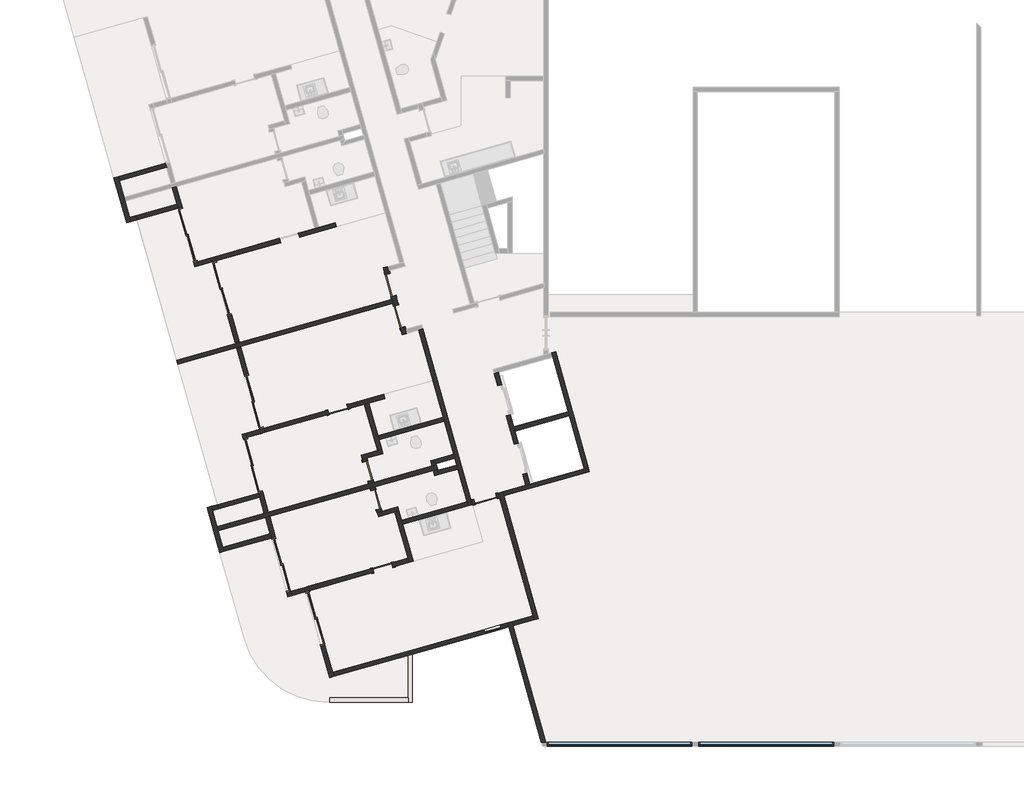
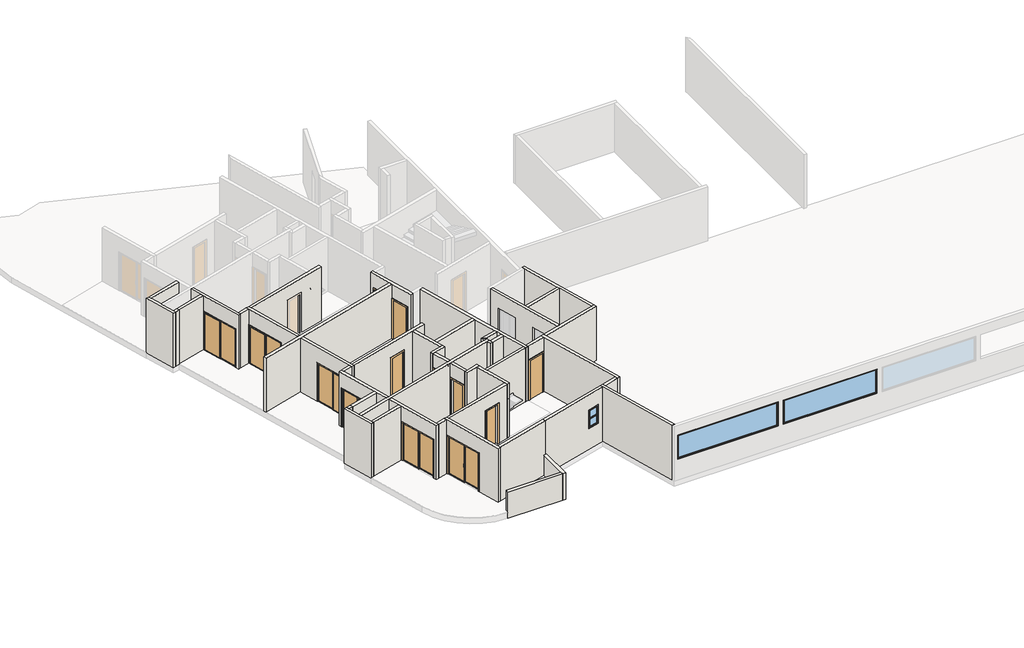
# One storey, part 1 of 9: 48 walls, 13 doors, 3 windows.
"""IFC4 building model written with IfcOpenShell, lengths in millimetres."""

from ifc_helpers import new_model, si_unit, frame, origin, place, context, project, spatial, polyline, outline, extrude, faceted_brep, transform, mapped, element, save
from components import p2_80cm_9d4be4ef, p2_80cm_083652d6, p3_70cm_ef4d15e3, p3_70cm_0a698c7c, p4_correr_200cm_eaaa0877, p4_correr_200cm_830b8f20, bx_60cm_cef95a5c, m_fixo1_jf_4_75m_a83b1cd6, m_fixo1_jf_5_10m_2770cfa0

model = new_model("IFC4")

# Units and contexts
model_context = context("Model", 3, world=origin())
ifc_project = project(units=[si_unit("LENGTHUNIT", "METRE", prefix="MILLI")], contexts=[model_context])

# Site, building, storey
site = spatial("IfcSite", under=ifc_project)
building = spatial("IfcBuilding", under=site)
storey = spatial("IfcBuildingStorey", under=building, Name="Garagem 1", Elevation=47850.0)

# Doors
placement = place(None, origin())
p2_80cm_shape = p2_80cm_9d4be4ef(model_context)
element("IfcDoor", 1, ObjectType="M_Folha única1 : P2 - 80CM", at=placement, inside=storey, context=model_context, shape_type="MappedRepresentation", body=[
    mapped(p2_80cm_shape, transform((-80566.3456776, 19693.5423602, 47850.0), x_axis=(0.2717679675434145, -0.9623628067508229, 0.0), y_axis=(0.9623628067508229, 0.2717679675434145, 0.0), z_axis=(0.0, 0.0, 1.0))),
])
element("IfcDoor", 2, ObjectType="M_Folha única1 : P2 - 80CM", at=placement, inside=storey, context=model_context, shape_type="MappedRepresentation", body=[
    mapped(p2_80cm_shape, transform((-77213.6668366, 12144.847648, 47850.0), x_axis=(0.9623628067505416, 0.2717679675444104, 0.0), y_axis=(-0.2717679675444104, 0.9623628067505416, 0.0), z_axis=(0.0, 0.0, 1.0))),
])
p2_80cm_2_shape = p2_80cm_083652d6(model_context)
element("IfcDoor", 3, ObjectType="M_Folha única1 : P2 - 80CM", at=placement, inside=storey, context=model_context, shape_type="MappedRepresentation", body=[
    mapped(p2_80cm_2_shape, transform((-80253.8125149, 18586.8251325, 47850.0), x_axis=(-0.2717679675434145, 0.9623628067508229, 0.0), y_axis=(-0.9623628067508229, -0.2717679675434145, 0.0), z_axis=(0.0, 0.0, 1.0))),
])
p3_70cm_shape = p3_70cm_ef4d15e3(model_context)
element("IfcDoor", 4, ObjectType="M_Folha única1 : P3 - 70CM", at=placement, inside=storey, context=model_context, shape_type="MappedRepresentation", body=[
    mapped(p3_70cm_shape, transform((-80840.7851368, 9718.5269225, 47850.0), x_axis=(0.9623628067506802, 0.2717679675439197, 0.0), y_axis=(-0.2717679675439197, 0.9623628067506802, 0.0), z_axis=(0.0, 0.0, 1.0))),
])
element("IfcDoor", 5, ObjectType="M_Folha única1 : P3 - 70CM", at=placement, inside=storey, context=model_context, shape_type="MappedRepresentation", body=[
    mapped(p3_70cm_shape, transform((-81362.5862327, 13130.1209218, 47850.0), x_axis=(0.271767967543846, -0.9623628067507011, 0.0), y_axis=(0.9623628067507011, 0.271767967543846, 0.0), z_axis=(0.0, 0.0, 1.0))),
])
p3_70cm_2_shape = p3_70cm_0a698c7c(model_context)
element("IfcDoor", 6, ObjectType="M_Folha única1 : P3 - 70CM", at=placement, inside=storey, context=model_context, shape_type="MappedRepresentation", body=[
    mapped(p3_70cm_2_shape, transform((-81077.2298668, 12119.6399747, 47850.0), x_axis=(-0.27176796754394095, 0.9623628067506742, 0.0), y_axis=(-0.9623628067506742, -0.27176796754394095, 0.0), z_axis=(0.0, 0.0, 1.0))),
])
element("IfcDoor", 7, ObjectType="M_Folha única1 : P3 - 70CM", at=placement, inside=storey, context=model_context, shape_type="MappedRepresentation", body=[
    mapped(p3_70cm_2_shape, transform((-82417.0393485, 15300.2312016, 47850.0), x_axis=(0.9623628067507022, 0.27176796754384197, 0.0), y_axis=(-0.27176796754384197, 0.9623628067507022, 0.0), z_axis=(0.0, 0.0, 1.0))),
])
p4_correr_200cm_shape = p4_correr_200cm_eaaa0877(model_context)
element("IfcDoor", 8, ObjectType="Porta de correr dupla envidraçada sem revestimento : P4 - CORRER - 200CM", at=placement, inside=storey, context=model_context, shape_type="MappedRepresentation", body=[
    mapped(p4_correr_200cm_shape, transform((-86511.4049952, 19573.3416554, 47850.0), x_axis=(0.2717679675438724, -0.9623628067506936, 0.0), y_axis=(0.9623628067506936, 0.2717679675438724, 0.0), z_axis=(0.0, 0.0, 1.0))),
])
element("IfcDoor", 9, ObjectType="Porta de correr dupla envidraçada sem revestimento : P4 - CORRER - 200CM", at=placement, inside=storey, context=model_context, shape_type="MappedRepresentation", body=[
    mapped(p4_correr_200cm_shape, transform((-87717.4207223, 21466.8516126, 47850.0), x_axis=(0.2717679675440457, -0.9623628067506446, 0.0), y_axis=(0.9623628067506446, 0.2717679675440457, 0.0), z_axis=(0.0, 0.0, 1.0))),
])
element("IfcDoor", 10, ObjectType="Porta de correr dupla envidraçada sem revestimento : P4 - CORRER - 200CM", at=placement, inside=storey, context=model_context, shape_type="MappedRepresentation", body=[
    mapped(p4_correr_200cm_shape, transform((-84429.028315, 9822.2616509, 47850.0), x_axis=(-0.27176796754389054, 0.9623628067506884, 0.0), y_axis=(-0.9623628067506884, -0.27176796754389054, 0.0), z_axis=(0.0, 0.0, 1.0))),
])
element("IfcDoor", 11, ObjectType="Porta de correr dupla envidraçada sem revestimento : P4 - CORRER - 200CM", at=placement, inside=storey, context=model_context, shape_type="MappedRepresentation", body=[
    mapped(p4_correr_200cm_shape, transform((-83223.012588, 7928.7516937, 47850.0), x_axis=(-0.2717679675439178, 0.9623628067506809, 0.0), y_axis=(-0.9623628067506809, -0.2717679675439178, 0.0), z_axis=(0.0, 0.0, 1.0))),
])
p4_correr_200cm_2_shape = p4_correr_200cm_830b8f20(model_context)
element("IfcDoor", 12, ObjectType="Porta de correr dupla envidraçada sem revestimento : P4 - CORRER - 200CM", at=placement, inside=storey, context=model_context, shape_type="MappedRepresentation", body=[
    mapped(p4_correr_200cm_2_shape, transform((-85383.5679299, 15579.5360073, 47850.0), x_axis=(-0.2717679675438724, 0.9623628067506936, 0.0), y_axis=(-0.9623628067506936, -0.2717679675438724, 0.0), z_axis=(0.0, 0.0, 1.0))),
])
element("IfcDoor", 13, ObjectType="Porta de correr dupla envidraçada sem revestimento : P4 - CORRER - 200CM", at=placement, inside=storey, context=model_context, shape_type="MappedRepresentation", body=[
    mapped(p4_correr_200cm_2_shape, transform((-85420.9813965, 13334.8858955, 47850.0), x_axis=(-0.27176796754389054, 0.9623628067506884, 0.0), y_axis=(-0.9623628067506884, -0.27176796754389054, 0.0), z_axis=(0.0, 0.0, 1.0))),
])

# Walls
element("IfcWall", 14, ObjectType="Básica .15 -  Interna", at=placement, inside=storey, context=model_context, shape_type="Brep", body=[
    faceted_brep([(-75344.9919691, 7919.3931149, 47850.0), (-76567.7484146, 12249.3196164, 47850.0), (-76608.5136097, 12393.6740374, 47850.0), (-76608.5136097, 12393.6740374, 50750.0), (-76567.7484146, 12249.3196164, 50750.0), (-75344.9919691, 7919.3931149, 50750.0), (-75489.3463901, 7878.6279198, 47850.0), (-75489.3463901, 7878.6279198, 50750.0), (-75530.1115852, 8022.9823408, 50750.0), (-76712.1028356, 12208.5544213, 50750.0), (-76752.8680308, 12352.9088423, 50750.0), (-76752.8680308, 12352.9088423, 47850.0), (-76712.1028356, 12208.5544213, 47850.0), (-75530.1115852, 8022.9823408, 47850.0)], [[[0, 1, 2, 3, 4, 5]], [[6, 7, 8, 9, 10, 11, 12, 13]], [[2, 1, 0, 6, 13, 12, 11]], [[5, 4, 3, 10, 9, 8, 7]], [[3, 2, 11, 10]], [[0, 5, 7, 6]]]),
])
element("IfcWall", 15, ObjectType="Básica .15 -  Interna", at=placement, inside=storey, context=model_context, shape_type="Brep", body=[
    faceted_brep([(-80529.815701, 19288.21464, 47850.0), (-80502.6389043, 19191.9783593, 47850.0), (-80461.8737092, 19047.6239383, 47850.0), (-80434.6969124, 18951.3876576, 47850.0), (-80434.6969124, 18951.3876576, 49950.0), (-80217.2825384, 18181.4974122, 49950.0), (-80217.2825384, 18181.4974122, 47850.0), (-80149.3405465, 17940.9067105, 47850.0), (-80149.3405465, 17940.9067105, 50750.0), (-80461.8737092, 19047.6239383, 50750.0), (-80502.6389043, 19191.9783593, 50750.0), (-80815.172067, 20298.695587, 50750.0), (-80815.172067, 20298.695587, 47850.0), (-80747.2300751, 20058.1048854, 47850.0), (-80747.2300751, 20058.1048854, 49950.0), (-80529.815701, 19288.21464, 49950.0), (-80290.3424914, 18992.1528527, 49950.0), (-80290.3424914, 18992.1528527, 47850.0), (-80385.46128, 19328.9798351, 47850.0), (-80385.46128, 19328.9798351, 49950.0), (-80602.8756541, 20098.8700805, 49950.0), (-80602.8756541, 20098.8700805, 47850.0), (-80630.0524508, 20195.1063612, 47850.0), (-80670.817646, 20339.4607822, 47850.0), (-80670.817646, 20339.4607822, 50750.0), (-80630.0524508, 20195.1063612, 50750.0), (-80045.7513206, 18126.0263266, 50750.0), (-80004.9861255, 17981.6719056, 50750.0), (-80004.9861255, 17981.6719056, 47850.0), (-80045.7513206, 18126.0263266, 47850.0), (-80072.9281174, 18222.2626073, 47850.0), (-80072.9281174, 18222.2626073, 49950.0)], [[[0, 1, 2, 3, 4, 5, 6, 7, 8, 9, 10, 11, 12, 13, 14, 15]], [[16, 17, 18, 19, 20, 21, 22, 23, 24, 25, 26, 27, 28, 29, 30, 31]], [[13, 12, 23, 22, 21]], [[18, 17, 3, 2, 1, 0]], [[30, 29, 28, 7, 6]], [[11, 10, 9, 8, 27, 26, 25, 24]], [[12, 11, 24, 23]], [[8, 7, 28, 27]], [[19, 18, 0, 15]], [[20, 19, 15, 14]], [[21, 20, 14, 13]], [[4, 3, 17, 16]], [[5, 4, 16, 31]], [[6, 5, 31, 30]]]),
])
element("IfcWall", 16, ObjectType="Básica .15 -  Interna", at=placement, inside=storey, context=model_context, shape_type="Brep", body=[
    faceted_brep([(-79571.9228624, 18103.967491, 47850.0), (-78702.2653663, 15024.4065094, 47850.0), (-78661.5001712, 14880.0520884, 47850.0), (-78335.3786101, 13725.2167203, 47850.0), (-78294.613415, 13580.8622993, 47850.0), (-78226.6714231, 13340.2715976, 47850.0), (-78185.906228, 13195.9171766, 47850.0), (-77818.8200634, 11896.0212586, 47850.0), (-77818.8200634, 11896.0212586, 50750.0), (-78185.906228, 13195.9171766, 50750.0), (-78226.6714231, 13340.2715976, 50750.0), (-78294.613415, 13580.8622993, 50750.0), (-78335.3786101, 13725.2167203, 50750.0), (-78661.5001712, 14880.0520884, 50750.0), (-78702.2653663, 15024.4065094, 50750.0), (-79571.9228624, 18103.967491, 50750.0), (-79427.5684414, 18144.7326862, 47850.0), (-79427.5684414, 18144.7326862, 50750.0), (-77715.2308375, 12081.1408747, 50750.0), (-77674.4656424, 11936.7864537, 50750.0), (-77674.4656424, 11936.7864537, 47850.0), (-77715.2308375, 12081.1408747, 47850.0)], [[[0, 1, 2, 3, 4, 5, 6, 7, 8, 9, 10, 11, 12, 13, 14, 15]], [[16, 17, 18, 19, 20, 21]], [[7, 6, 5, 4, 3, 2, 1, 0, 16, 21, 20]], [[15, 14, 13, 12, 11, 10, 9, 8, 19, 18, 17]], [[0, 15, 17, 16]], [[8, 7, 20, 19]]]),
])
element("IfcWall", 17, ObjectType="Básica .15 -  Interna", at=placement, inside=storey, context=model_context, shape_type="Brep", body=[
    faceted_brep([(-85017.5646639, 11630.3683862, 50750.0), (-85180.6254444, 12207.7860702, 50750.0), (-85221.3906395, 12352.1404912, 50750.0), (-85805.6917697, 14421.2205257, 50750.0), (-85805.6917697, 14421.2205257, 47850.0), (-85764.9265746, 14276.8661047, 47850.0), (-85764.9265746, 14276.8661047, 49950.0), (-85221.3906395, 12352.1404912, 49950.0), (-85221.3906395, 12352.1404912, 47850.0), (-85180.6254444, 12207.7860702, 47850.0), (-85017.5646639, 11630.3683862, 47850.0), (-85661.3373487, 14461.9857209, 50750.0), (-85620.5721536, 14317.6312998, 50750.0), (-84873.2102428, 11671.1335813, 50750.0), (-84873.2102428, 11671.1335813, 47850.0), (-85077.0362185, 12392.9056863, 47850.0), (-85077.0362185, 12392.9056863, 49950.0), (-85620.5721536, 14317.6312998, 49950.0), (-85620.5721536, 14317.6312998, 47850.0), (-85661.3373487, 14461.9857209, 47850.0)], [[[0, 1, 2, 3, 4, 5, 6, 7, 8, 9, 10]], [[11, 12, 13, 14, 15, 16, 17, 18, 19]], [[4, 19, 18, 5]], [[14, 10, 9, 8, 15]], [[3, 2, 1, 0, 13, 12, 11]], [[4, 3, 11, 19]], [[0, 10, 14, 13]], [[17, 6, 5, 18]], [[6, 17, 16, 7]], [[7, 16, 15, 8]]]),
])
element("IfcWall", 18, ObjectType="Básica .15 -  Interna", at=placement, inside=storey, context=model_context, shape_type="Brep", body=[
    faceted_brep([(-82710.8886682, 5839.2890616, 50750.0), (-83566.957766, 8870.7319029, 50750.0), (-83607.7229611, 9015.0863239, 50750.0), (-83607.7229611, 9015.0863239, 47850.0), (-83566.957766, 8870.7319029, 47850.0), (-83566.957766, 8870.7319029, 49950.0), (-83023.4218309, 6946.0062894, 49950.0), (-83023.4218309, 6946.0062894, 47850.0), (-82710.8886682, 5839.2890616, 47850.0), (-83463.3685401, 9055.851519, 50750.0), (-83422.603345, 8911.497098, 50750.0), (-82607.2994424, 6024.4086777, 50750.0), (-82566.5342472, 5880.0542567, 50750.0), (-82566.5342472, 5880.0542567, 47850.0), (-82607.2994424, 6024.4086777, 47850.0), (-82879.0674099, 6986.7714845, 47850.0), (-82879.0674099, 6986.7714845, 49950.0), (-83422.603345, 8911.497098, 49950.0), (-83422.603345, 8911.497098, 47850.0), (-83463.3685401, 9055.851519, 47850.0)], [[[0, 1, 2, 3, 4, 5, 6, 7, 8]], [[9, 10, 11, 12, 13, 14, 15, 16, 17, 18, 19]], [[3, 19, 18, 4]], [[13, 8, 7, 15, 14]], [[2, 1, 0, 12, 11, 10, 9]], [[3, 2, 9, 19]], [[0, 8, 13, 12]], [[17, 5, 4, 18]], [[5, 17, 16, 6]], [[6, 16, 15, 7]]]),
])
element("IfcWall", 19, ObjectType="Básica .15 -  Interna", at=placement, inside=storey, context=model_context, shape_type="Brep", body=[
    faceted_brep([(-86046.8404698, 17652.2925145, 47850.0), (-86046.8404698, 17652.2925145, 50750.0), (-86855.3501733, 20515.3218646, 50750.0), (-86896.1153684, 20659.6762856, 50750.0), (-86896.1153684, 20659.6762856, 47850.0), (-86855.3501733, 20515.3218646, 47850.0), (-86855.3501733, 20515.3218646, 49950.0), (-86311.8142382, 18590.596251, 49950.0), (-86311.8142382, 18590.596251, 47850.0), (-85902.4860488, 17693.0577096, 50750.0), (-85902.4860488, 17693.0577096, 47850.0), (-86167.4598172, 18631.3614462, 47850.0), (-86167.4598172, 18631.3614462, 49950.0), (-86710.9957523, 20556.0870597, 49950.0), (-86710.9957523, 20556.0870597, 47850.0), (-86751.7609474, 20700.4414807, 47850.0), (-86751.7609474, 20700.4414807, 50750.0), (-86710.9957523, 20556.0870597, 50750.0)], [[[0, 1, 2, 3, 4, 5, 6, 7, 8]], [[9, 10, 11, 12, 13, 14, 15, 16, 17]], [[10, 0, 8, 11]], [[4, 15, 14, 5]], [[1, 0, 10, 9]], [[3, 2, 1, 9, 17, 16]], [[4, 3, 16, 15]], [[7, 12, 11, 8]], [[12, 7, 6, 13]], [[13, 6, 5, 14]]]),
])
element("IfcWall", 20, ObjectType="Básica .15 - Externa", at=placement, inside=storey, context=model_context, shape_type="Brep", body=[
    faceted_brep([(-79945.4990038, 6620.2256515, 48950.0), (-79945.4990038, 6620.2256515, 47850.0), (-79945.4990038, 6620.2256515, 47550.0), (-79945.4990038, 5119.4122055, 47550.0), (-79945.4990038, 4969.4122055, 47550.0), (-79945.4990038, 4969.4122055, 48950.0), (-79945.4990038, 5119.4122055, 48950.0), (-79795.4990038, 6662.5851389, 47550.0), (-79795.4990038, 6662.5851389, 48950.0), (-79795.4990038, 4969.4122055, 48950.0), (-79795.4990038, 4969.4122055, 47550.0), (-79850.1164062, 6647.1613711, 47550.0)], [[[0, 1, 2, 3, 4, 5, 6]], [[7, 8, 9, 10]], [[4, 3, 2, 11, 7, 10]], [[0, 6, 5, 9, 8]], [[5, 4, 10, 9]], [[0, 8, 7, 11, 2, 1]]]),
])
element("IfcWall", 21, ObjectType="Básica .15 - Externa", at=placement, inside=storey, context=model_context, shape_type="SweptSolid", body=[
    extrude(outline(polyline([(-82713.5540687, 5119.4122055), (-79945.4990038, 5119.4122055), (-79945.4990038, 4969.4122055), (-82713.5540687, 4969.4122055), (-82713.5540687, 5119.4122055)])), frame((0.0, 0.0, 47550.0), z_axis=(0.0, 0.0, 1.0), x_axis=(1.0, 0.0, 0.0)), (0.0, 0.0, 1.0), 1400.0),
])
element("IfcWall", 22, ObjectType="Básica .15 -  Interna", at=placement, inside=storey, context=model_context, shape_type="Brep", body=[
    faceted_brep([(-73581.8825825, 13248.3842954, 47850.0), (-73726.2370035, 13207.6191002, 47850.0), (-75646.150803, 12665.442005, 47850.0), (-75790.505224, 12624.6768098, 47850.0), (-76608.5136097, 12393.6740374, 47850.0), (-76608.5136097, 12393.6740374, 50750.0), (-75790.505224, 12624.6768098, 50750.0), (-75646.150803, 12665.442005, 50750.0), (-73726.2370035, 13207.6191002, 50750.0), (-73581.8825825, 13248.3842954, 50750.0), (-73541.1173874, 13104.0298743, 47850.0), (-73541.1173874, 13104.0298743, 50750.0), (-76567.7484146, 12249.3196164, 50750.0), (-76567.7484146, 12249.3196164, 47850.0)], [[[0, 1, 2, 3, 4, 5, 6, 7, 8, 9]], [[10, 11, 12, 13]], [[4, 3, 2, 1, 0, 10, 13]], [[9, 8, 7, 6, 5, 12, 11]], [[0, 9, 11, 10]], [[5, 4, 13, 12]]]),
])
element("IfcWall", 23, ObjectType="Básica .15 -  Interna", at=placement, inside=storey, context=model_context, shape_type="Brep", body=[
    faceted_brep([(-74881.2508656, 17297.6610289, 47850.0), (-74840.4856705, 17153.3066079, 47850.0), (-74296.9497354, 15228.5809944, 47850.0), (-74256.1845402, 15084.2265734, 47850.0), (-73726.2370035, 13207.6191002, 47850.0), (-73726.2370035, 13207.6191002, 50750.0), (-74256.1845402, 15084.2265734, 50750.0), (-74296.9497354, 15228.5809944, 50750.0), (-74840.4856705, 17153.3066079, 50750.0), (-74881.2508656, 17297.6610289, 50750.0), (-74736.8964446, 17338.426224, 47850.0), (-74736.8964446, 17338.426224, 50750.0), (-73581.8825825, 13248.3842954, 50750.0), (-73581.8825825, 13248.3842954, 47850.0)], [[[0, 1, 2, 3, 4, 5, 6, 7, 8, 9]], [[10, 11, 12, 13]], [[4, 3, 2, 1, 0, 10, 13]], [[9, 8, 7, 6, 5, 12, 11]], [[5, 4, 13, 12]], [[0, 9, 11, 10]]]),
])
element("IfcWall", 24, ObjectType="Básica .15 -  Interna", at=placement, inside=storey, context=model_context, shape_type="Brep", body=[
    faceted_brep([(-76483.167581, 15077.4768805, 47850.0), (-76197.8112151, 14066.9959334, 47850.0), (-76197.8112151, 14066.9959334, 49975.0), (-75898.8664508, 13008.396846, 49975.0), (-75898.8664508, 13008.396846, 47850.0), (-75790.505224, 12624.6768098, 47850.0), (-75790.505224, 12624.6768098, 50750.0), (-76904.7538909, 16570.3643175, 50750.0), (-76904.7538909, 16570.3643175, 47850.0), (-76782.1123453, 16136.075968, 47850.0), (-76782.1123453, 16136.075968, 49975.0), (-76483.167581, 15077.4768805, 49975.0), (-76053.4567941, 14107.7611286, 49975.0), (-76053.4567941, 14107.7611286, 47850.0), (-76176.0983397, 14542.0494781, 47850.0), (-76216.8635348, 14686.4038991, 47850.0), (-76338.81316, 15118.2420757, 47850.0), (-76338.81316, 15118.2420757, 49975.0), (-76637.7579243, 16176.8411631, 49975.0), (-76637.7579243, 16176.8411631, 47850.0), (-76760.3994699, 16611.1295126, 47850.0), (-76760.3994699, 16611.1295126, 50750.0), (-76216.8635348, 14686.4038991, 50750.0), (-76176.0983397, 14542.0494781, 50750.0), (-75646.150803, 12665.442005, 50750.0), (-75646.150803, 12665.442005, 47850.0), (-75754.5120298, 13049.1620412, 47850.0), (-75754.5120298, 13049.1620412, 49975.0)], [[[0, 1, 2, 3, 4, 5, 6, 7, 8, 9, 10, 11]], [[12, 13, 14, 15, 16, 17, 18, 19, 20, 21, 22, 23, 24, 25, 26, 27]], [[9, 8, 20, 19]], [[26, 25, 5, 4]], [[16, 15, 14, 13, 1, 0]], [[7, 6, 24, 23, 22, 21]], [[8, 7, 21, 20]], [[6, 5, 25, 24]], [[4, 3, 27, 26]], [[2, 1, 13, 12]], [[3, 2, 12, 27]], [[19, 18, 10, 9]], [[17, 16, 0, 11]], [[18, 17, 11, 10]]]),
])
element("IfcWall", 25, ObjectType="Básica .15 -  Interna", at=placement, inside=storey, context=model_context, shape_type="SweptSolid", body=[
    extrude(outline(polyline([(-74256.1845402, 15084.2265734), (-76176.0983397, 14542.0494781), (-76216.8635348, 14686.4038991), (-74296.9497354, 15228.5809944), (-74256.1845402, 15084.2265734)])), frame((0.0, 0.0, 47850.0), z_axis=(0.0, 0.0, 1.0), x_axis=(1.0, 0.0, 0.0)), (0.0, 0.0, 1.0), 2900.0),
])
element("IfcWall", 26, ObjectType="Básica .15 -  Interna", at=placement, inside=storey, context=model_context, shape_type="Brep", body=[
    faceted_brep([(-82566.5342472, 5880.0542567, 47850.0), (-79945.4990038, 6620.2256515, 47850.0), (-79850.1164062, 6647.1613711, 47850.0), (-79850.1164062, 6647.1613711, 50750.0), (-82566.5342472, 5880.0542567, 50750.0), (-82607.2994424, 6024.4086777, 47850.0), (-82607.2994424, 6024.4086777, 50750.0), (-79890.8816014, 6791.5157921, 50750.0), (-79890.8816014, 6791.5157921, 47850.0), (-79945.4990038, 6776.0920243, 47850.0)], [[[0, 1, 2, 3, 4]], [[5, 6, 7, 8, 9]], [[2, 1, 0, 5, 9, 8]], [[4, 3, 7, 6]], [[0, 4, 6, 5]], [[2, 8, 7, 3]]]),
])
element("IfcWall", 27, ObjectType="Básica .15 -  Interna", at=placement, inside=storey, context=model_context, shape_type="Brep", body=[
    faceted_brep([(-85221.3906395, 12352.1404912, 47850.0), (-86668.7560772, 11943.4094383, 47850.0), (-86668.7560772, 11943.4094383, 50750.0), (-85221.3906395, 12352.1404912, 50750.0), (-85221.3906395, 12352.1404912, 49950.0), (-85180.6254444, 12207.7860702, 47850.0), (-85180.6254444, 12207.7860702, 50750.0), (-86627.9908821, 11799.0550173, 50750.0), (-86627.9908821, 11799.0550173, 47850.0)], [[[0, 1, 2, 3, 4]], [[5, 6, 7, 8]], [[1, 0, 5, 8]], [[2, 1, 8, 7]], [[3, 2, 7, 6]], [[0, 4, 3, 6, 5]]]),
])
element("IfcWall", 28, ObjectType="Básica .15 - Externa", at=placement, inside=storey, context=model_context, shape_type="Brep", body=[
    faceted_brep([(-86444.4738537, 10292.215871, 47850.0), (-86485.2390488, 10436.570292, 47850.0), (-86648.2998293, 11013.987976, 47850.0), (-86689.0650245, 11158.342397, 47850.0), (-86852.125805, 11735.7600811, 47850.0), (-86892.8910001, 11880.1145021, 47850.0), (-86892.8910001, 11880.1145021, 50750.0), (-86852.125805, 11735.7600811, 50750.0), (-86689.0650245, 11158.342397, 50750.0), (-86648.2998293, 11013.987976, 50750.0), (-86485.2390488, 10436.570292, 50750.0), (-86444.4738537, 10292.215871, 50750.0), (-86588.8282747, 10251.4506758, 47850.0), (-86588.8282747, 10251.4506758, 50750.0), (-87037.2454211, 11839.349307, 50750.0), (-87037.2454211, 11839.349307, 47850.0)], [[[0, 1, 2, 3, 4, 5, 6, 7, 8, 9, 10, 11]], [[12, 13, 14, 15]], [[5, 4, 3, 2, 1, 0, 12, 15]], [[11, 10, 9, 8, 7, 6, 14, 13]], [[6, 5, 15, 14]], [[0, 11, 13, 12]]]),
])
element("IfcWall", 29, ObjectType="Básica .15 -  Interna", at=placement, inside=storey, context=model_context, shape_type="Brep", body=[
    faceted_brep([(-86444.4738537, 10292.215871, 47850.0), (-84772.9734931, 10764.2418601, 47850.0), (-84772.9734931, 10764.2418601, 49950.0), (-84772.9734931, 10764.2418601, 50750.0), (-86444.4738537, 10292.215871, 50750.0), (-86485.2390488, 10436.570292, 47850.0), (-86485.2390488, 10436.570292, 50750.0), (-84813.7386882, 10908.5962811, 50750.0), (-84813.7386882, 10908.5962811, 47850.0)], [[[0, 1, 2, 3, 4]], [[5, 6, 7, 8]], [[1, 0, 5, 8]], [[4, 3, 7, 6]], [[0, 4, 6, 5]], [[3, 2, 1, 8, 7]]]),
])
element("IfcWall", 30, ObjectType="Básica .15 - Externa", at=placement, inside=storey, context=model_context, shape_type="Brep", body=[
    faceted_brep([(-89732.866261, 21936.8058326, 47850.0), (-89773.6314561, 22081.1602536, 47850.0), (-89936.6922366, 22658.5779377, 47850.0), (-89977.4574318, 22802.9323587, 47850.0), (-90140.5182123, 23380.3500428, 47850.0), (-90181.2834074, 23524.7044638, 47850.0), (-90181.2834074, 23524.7044638, 50750.0), (-90140.5182123, 23380.3500428, 50750.0), (-89977.4574318, 22802.9323587, 50750.0), (-89936.6922366, 22658.5779377, 50750.0), (-89773.6314561, 22081.1602536, 50750.0), (-89732.866261, 21936.8058326, 50750.0), (-89877.220682, 21896.0406375, 47850.0), (-89877.220682, 21896.0406375, 50750.0), (-90325.6378284, 23483.9392686, 50750.0), (-90325.6378284, 23483.9392686, 47850.0)], [[[0, 1, 2, 3, 4, 5, 6, 7, 8, 9, 10, 11]], [[12, 13, 14, 15]], [[5, 4, 3, 2, 1, 0, 12, 15]], [[11, 10, 9, 8, 7, 6, 14, 13]], [[0, 11, 13, 12]], [[6, 5, 15, 14]]]),
])
element("IfcWall", 31, ObjectType="Básica .15 -  Interna", at=placement, inside=storey, context=model_context, shape_type="Brep", body=[
    faceted_brep([(-88102.1310955, 22553.1862428, 47850.0), (-89549.4965332, 22144.4551899, 47850.0), (-89549.4965332, 22144.4551899, 50750.0), (-88102.1310955, 22553.1862428, 50750.0), (-88061.3659003, 22408.8318218, 47850.0), (-88061.3659003, 22408.8318218, 49950.0), (-88061.3659003, 22408.8318218, 50750.0), (-89508.731338, 22000.1007688, 50750.0), (-89508.731338, 22000.1007688, 47850.0)], [[[0, 1, 2, 3]], [[4, 5, 6, 7, 8]], [[1, 0, 4, 8]], [[2, 1, 8, 7]], [[3, 2, 7, 6]], [[0, 3, 6, 5, 4]]]),
])
element("IfcWall", 32, ObjectType="Básica .15 -  Interna", at=placement, inside=storey, context=model_context, shape_type="Brep", body=[
    faceted_brep([(-90140.5182123, 23380.3500428, 47850.0), (-88469.0178517, 23852.3760319, 47850.0), (-88469.0178517, 23852.3760319, 50750.0), (-90140.5182123, 23380.3500428, 50750.0), (-90181.2834074, 23524.7044638, 47850.0), (-90181.2834074, 23524.7044638, 50750.0), (-88509.7830468, 23996.7304529, 50750.0), (-88509.7830468, 23996.7304529, 49950.0), (-88509.7830468, 23996.7304529, 47850.0)], [[[0, 1, 2, 3]], [[4, 5, 6, 7, 8]], [[1, 0, 4, 8]], [[3, 2, 6, 5]], [[0, 3, 5, 4]], [[2, 1, 8, 7, 6]]]),
])
element("IfcWall", 33, ObjectType="Básica .15 -  Interna", at=placement, inside=storey, context=model_context, shape_type="Brep", body=[
    faceted_brep([(-86896.1153684, 20659.6762856, 47850.0), (-87373.4755442, 20524.8714034, 47850.0), (-87373.4755442, 20524.8714034, 49950.0), (-87373.4755442, 20524.8714034, 50750.0), (-86896.1153684, 20659.6762856, 50750.0), (-86855.3501733, 20515.3218646, 47850.0), (-86855.3501733, 20515.3218646, 49950.0), (-86855.3501733, 20515.3218646, 50750.0), (-87332.7103491, 20380.5169824, 50750.0), (-87332.7103491, 20380.5169824, 47850.0)], [[[0, 1, 2, 3, 4]], [[5, 6, 7, 8, 9]], [[1, 0, 5, 9]], [[4, 3, 8, 7]], [[0, 4, 7, 6, 5]], [[3, 2, 1, 9, 8]]]),
])
element("IfcWall", 34, ObjectType="Básica .15 -  Interna", at=placement, inside=storey, context=model_context, shape_type="Brep", body=[
    faceted_brep([(-83607.7229611, 9015.0863239, 47850.0), (-84085.083137, 8880.2814417, 47850.0), (-84085.083137, 8880.2814417, 49950.0), (-84085.083137, 8880.2814417, 50750.0), (-83607.7229611, 9015.0863239, 50750.0), (-83566.957766, 8870.7319029, 47850.0), (-83566.957766, 8870.7319029, 49950.0), (-83566.957766, 8870.7319029, 50750.0), (-84044.3179418, 8735.9270207, 50750.0), (-84044.3179418, 8735.9270207, 47850.0)], [[[0, 1, 2, 3, 4]], [[5, 6, 7, 8, 9]], [[1, 0, 5, 9]], [[4, 3, 8, 7]], [[3, 2, 1, 9, 8]], [[0, 4, 7, 6, 5]]]),
])
element("IfcWall", 35, ObjectType="Básica .15 -  Interna", at=placement, inside=storey, context=model_context, shape_type="Brep", body=[
    faceted_brep([(-85183.9771729, 14596.790603, 47850.0), (-85661.3373487, 14461.9857209, 47850.0), (-85661.3373487, 14461.9857209, 50750.0), (-85183.9771729, 14596.790603, 50750.0), (-85183.9771729, 14596.790603, 49950.0), (-85143.2119778, 14452.436182, 47850.0), (-85143.2119778, 14452.436182, 50750.0), (-85620.5721536, 14317.6312998, 50750.0), (-85620.5721536, 14317.6312998, 49950.0), (-85620.5721536, 14317.6312998, 47850.0)], [[[0, 1, 2, 3, 4]], [[5, 6, 7, 8, 9]], [[1, 0, 5, 9]], [[3, 2, 7, 6]], [[2, 1, 9, 8, 7]], [[0, 4, 3, 6, 5]]]),
])
element("IfcWall", 36, ObjectType="Básica .15 -  Interna", at=placement, inside=storey, context=model_context, shape_type="Brep", body=[
    faceted_brep([(-87477.0647701, 20339.7517872, 50750.0), (-88061.3659003, 22408.8318218, 50750.0), (-88102.1310955, 22553.1862428, 50750.0), (-88265.191876, 23130.6039268, 50750.0), (-88265.191876, 23130.6039268, 47850.0), (-88102.1310955, 22553.1862428, 47850.0), (-88061.3659003, 22408.8318218, 47850.0), (-88061.3659003, 22408.8318218, 49950.0), (-87517.8299653, 20484.1062083, 49950.0), (-87517.8299653, 20484.1062083, 47850.0), (-87477.0647701, 20339.7517872, 47850.0), (-88120.837455, 23171.369122, 50750.0), (-87373.4755442, 20524.8714034, 50750.0), (-87332.7103491, 20380.5169824, 50750.0), (-87332.7103491, 20380.5169824, 47850.0), (-87373.4755442, 20524.8714034, 47850.0), (-87373.4755442, 20524.8714034, 49950.0), (-87917.0114793, 22449.5970169, 49950.0), (-87917.0114793, 22449.5970169, 47850.0), (-88120.837455, 23171.369122, 47850.0)], [[[0, 1, 2, 3, 4, 5, 6, 7, 8, 9, 10]], [[11, 12, 13, 14, 15, 16, 17, 18, 19]], [[14, 10, 9, 15]], [[4, 19, 18, 6, 5]], [[3, 2, 1, 0, 13, 12, 11]], [[0, 10, 14, 13]], [[4, 3, 11, 19]], [[8, 16, 15, 9]], [[16, 8, 7, 17]], [[17, 7, 6, 18]]]),
])
element("IfcWall", 37, ObjectType="Básica .15 -  Interna", at=placement, inside=storey, context=model_context, shape_type="Brep", body=[
    faceted_brep([(-85143.2119778, 14452.436182, 50750.0), (-85183.9771729, 14596.790603, 50750.0), (-85992.4868763, 17459.8199531, 50750.0), (-85992.4868763, 17459.8199531, 47850.0), (-85727.513108, 16521.5162165, 47850.0), (-85727.513108, 16521.5162165, 49950.0), (-85183.9771729, 14596.790603, 49950.0), (-85183.9771729, 14596.790603, 47850.0), (-85143.2119778, 14452.436182, 47850.0), (-85848.1324553, 17500.5851482, 50750.0), (-85039.6227519, 14637.5557982, 50750.0), (-84998.8575568, 14493.2013772, 50750.0), (-84998.8575568, 14493.2013772, 47850.0), (-85039.6227519, 14637.5557982, 47850.0), (-85039.6227519, 14637.5557982, 49950.0), (-85583.158687, 16562.2814117, 49950.0), (-85583.158687, 16562.2814117, 47850.0), (-85848.1324553, 17500.5851482, 47850.0)], [[[0, 1, 2, 3, 4, 5, 6, 7, 8]], [[9, 10, 11, 12, 13, 14, 15, 16, 17]], [[3, 17, 16, 4]], [[12, 8, 7, 13]], [[2, 1, 0, 11, 10, 9]], [[3, 2, 9, 17]], [[0, 8, 12, 11]], [[15, 5, 4, 16]], [[5, 15, 14, 6]], [[6, 14, 13, 7]]]),
])
element("IfcWall", 38, ObjectType="Básica .15 -  Interna", at=placement, inside=storey, context=model_context, shape_type="SweptSolid", body=[
    extrude(outline(polyline([(-80461.8737092, 19047.6239383), (-88068.36111, 16899.5778931), (-88109.1263052, 17043.9323141), (-80502.6389043, 19191.9783593), (-80461.8737092, 19047.6239383)])), frame((0.0, 0.0, 47850.0), z_axis=(0.0, 0.0, 1.0), x_axis=(1.0, 0.0, 0.0)), (0.0, 0.0, 1.0), 2900.0),
])
element("IfcWall", 39, ObjectType="Básica .15 -  Interna", at=placement, inside=storey, context=model_context, shape_type="Brep", body=[
    faceted_brep([(-78945.0553533, 13345.2242614, 47850.0), (-81168.1134369, 12717.4402563, 47850.0), (-81312.4678579, 12676.6750612, 47850.0), (-84873.2102428, 11671.1335813, 47850.0), (-85017.5646639, 11630.3683862, 47850.0), (-86689.0650245, 11158.342397, 47850.0), (-86689.0650245, 11158.342397, 50750.0), (-85017.5646639, 11630.3683862, 50750.0), (-84873.2102428, 11671.1335813, 50750.0), (-81312.4678579, 12676.6750612, 50750.0), (-81168.1134369, 12717.4402563, 50750.0), (-78945.0553533, 13345.2242614, 50750.0), (-78904.2901581, 13200.8698403, 47850.0), (-78904.2901581, 13200.8698403, 50750.0), (-81127.3482417, 12573.0858353, 50750.0), (-81271.7026627, 12532.3206402, 50750.0), (-84832.4450477, 11526.7791603, 50750.0), (-84976.7994687, 11486.0139651, 50750.0), (-86648.2998293, 11013.987976, 50750.0), (-86648.2998293, 11013.987976, 47850.0), (-84976.7994687, 11486.0139651, 47850.0), (-84832.4450477, 11526.7791603, 47850.0), (-81271.7026627, 12532.3206402, 47850.0), (-81127.3482417, 12573.0858353, 47850.0)], [[[0, 1, 2, 3, 4, 5, 6, 7, 8, 9, 10, 11]], [[12, 13, 14, 15, 16, 17, 18, 19, 20, 21, 22, 23]], [[5, 4, 3, 2, 1, 0, 12, 23, 22, 21, 20, 19]], [[11, 10, 9, 8, 7, 6, 18, 17, 16, 15, 14, 13]], [[0, 11, 13, 12]], [[6, 5, 19, 18]]]),
])
element("IfcWall", 40, ObjectType="Básica .15 -  Interna", at=placement, inside=storey, context=model_context, shape_type="Brep", body=[
    faceted_brep([(-84188.6723628, 8695.1618256, 50750.0), (-84772.9734931, 10764.2418601, 50750.0), (-84813.7386882, 10908.5962811, 50750.0), (-84976.7994687, 11486.0139651, 50750.0), (-84976.7994687, 11486.0139651, 47850.0), (-84813.7386882, 10908.5962811, 47850.0), (-84772.9734931, 10764.2418601, 47850.0), (-84772.9734931, 10764.2418601, 49950.0), (-84229.437558, 8839.5162466, 49950.0), (-84229.437558, 8839.5162466, 47850.0), (-84188.6723628, 8695.1618256, 47850.0), (-84832.4450477, 11526.7791603, 50750.0), (-84085.083137, 8880.2814417, 50750.0), (-84044.3179418, 8735.9270207, 50750.0), (-84044.3179418, 8735.9270207, 47850.0), (-84085.083137, 8880.2814417, 47850.0), (-84085.083137, 8880.2814417, 49950.0), (-84628.6190721, 10805.0070552, 49950.0), (-84628.6190721, 10805.0070552, 47850.0), (-84832.4450477, 11526.7791603, 47850.0)], [[[0, 1, 2, 3, 4, 5, 6, 7, 8, 9, 10]], [[11, 12, 13, 14, 15, 16, 17, 18, 19]], [[14, 10, 9, 15]], [[4, 19, 18, 6, 5]], [[3, 2, 1, 0, 13, 12, 11]], [[0, 10, 14, 13]], [[4, 3, 11, 19]], [[17, 7, 6, 18]], [[7, 17, 16, 8]], [[8, 16, 15, 9]]]),
])
element("IfcWall", 41, ObjectType="Básica .15 - Externa", at=placement, inside=storey, context=model_context, shape_type="SweptSolid", body=[
    extrude(outline(polyline([(-89773.6314561, 22081.1602536), (-89549.4965332, 22144.4551899), (-89508.731338, 22000.1007688), (-89732.866261, 21936.8058326), (-89773.6314561, 22081.1602536)])), frame((0.0, 0.0, 47850.0), z_axis=(0.0, 0.0, 1.0), x_axis=(1.0, 0.0, 0.0)), (0.0, 0.0, 1.0), 2900.0),
])
element("IfcWall", 42, ObjectType="Básica .15 - Externa", at=placement, inside=storey, context=model_context, shape_type="SweptSolid", body=[
    extrude(outline(polyline([(-86892.8910001, 11880.1145021), (-86668.7560772, 11943.4094383), (-86627.9908821, 11799.0550173), (-86852.125805, 11735.7600811), (-86892.8910001, 11880.1145021)])), frame((0.0, 0.0, 47850.0), z_axis=(0.0, 0.0, 1.0), x_axis=(1.0, 0.0, 0.0)), (0.0, 0.0, 1.0), 2900.0),
])
element("IfcWall", 43, ObjectType="Básica .15 -  Interna", at=placement, inside=storey, context=model_context, shape_type="Brep", body=[
    faceted_brep([(-82513.5433702, 21897.2996395, 47850.0), (-83090.9610542, 21734.238859, 47850.0), (-83235.3154752, 21693.4736638, 47850.0), (-83812.7331593, 21530.4128833, 47850.0), (-83812.7331593, 21530.4128833, 49950.0), (-84486.387124, 21340.175306, 49950.0), (-84486.387124, 21340.175306, 47850.0), (-86751.7609474, 20700.4414807, 47850.0), (-86751.7609474, 20700.4414807, 50750.0), (-83235.3154752, 21693.4736638, 50750.0), (-83090.9610542, 21734.238859, 50750.0), (-82513.5433702, 21897.2996395, 50750.0), (-83771.9679641, 21386.0584623, 49950.0), (-83771.9679641, 21386.0584623, 47850.0), (-82472.778175, 21752.9452185, 47850.0), (-82472.778175, 21752.9452185, 50750.0), (-86710.9957523, 20556.0870597, 50750.0), (-86710.9957523, 20556.0870597, 49950.0), (-86710.9957523, 20556.0870597, 47850.0), (-84445.6219289, 21195.820885, 47850.0), (-84445.6219289, 21195.820885, 49950.0)], [[[0, 1, 2, 3, 4, 5, 6, 7, 8, 9, 10, 11]], [[12, 13, 14, 15, 16, 17, 18, 19, 20]], [[19, 18, 7, 6]], [[14, 13, 3, 2, 1, 0]], [[11, 10, 9, 8, 16, 15]], [[0, 11, 15, 14]], [[4, 3, 13, 12]], [[5, 4, 12, 20]], [[6, 5, 20, 19]], [[8, 7, 18, 17, 16]]]),
])
element("IfcWall", 44, ObjectType="Básica .15 -  Interna", at=placement, inside=storey, context=model_context, shape_type="SweptSolid", body=[
    extrude(outline(polyline([(-80169.4554031, 11388.8386864), (-77859.7846669, 12041.0818085), (-77819.0194718, 11896.7273875), (-80128.690208, 11244.4842654), (-80169.4554031, 11388.8386864)])), frame((0.0, 0.0, 47850.0), z_axis=(0.0, 0.0, 1.0), x_axis=(1.0, 0.0, 0.0)), (0.0, 0.0, 1.0), 2900.0),
])
element("IfcWall", 45, ObjectType="Básica .15 -  Interna", at=placement, inside=storey, context=model_context, shape_type="SweptSolid", body=[
    extrude(outline(polyline([(-78185.906228, 13195.9171766), (-78849.9365646, 13008.397279), (-78890.7017597, 13152.7517), (-78226.6714231, 13340.2715976), (-78185.906228, 13195.9171766)])), frame((0.0, 0.0, 47850.0), z_axis=(0.0, 0.0, 1.0), x_axis=(1.0, 0.0, 0.0)), (0.0, 0.0, 1.0), 2900.0),
])
element("IfcWall", 46, ObjectType="Básica .15 -  Interna", at=placement, inside=storey, context=model_context, shape_type="Brep", body=[
    faceted_brep([(-80986.3462968, 11521.8396931, 47850.0), (-80408.9286128, 11684.9004736, 47850.0), (-80264.5741917, 11725.6656688, 47850.0), (-80264.5741917, 11725.6656688, 50750.0), (-80408.9286128, 11684.9004736, 50750.0), (-80986.3462968, 11521.8396931, 50750.0), (-81027.1114919, 11666.1941141, 47850.0), (-81027.1114919, 11666.1941141, 50750.0), (-80882.7570709, 11706.9593092, 50750.0), (-80305.3393869, 11870.0200898, 50750.0), (-80305.3393869, 11870.0200898, 47850.0), (-80882.7570709, 11706.9593092, 47850.0)], [[[0, 1, 2, 3, 4, 5]], [[6, 7, 8, 9, 10, 11]], [[2, 1, 0, 6, 11, 10]], [[5, 4, 3, 9, 8, 7]], [[0, 5, 7, 6]], [[3, 2, 10, 9]]]),
])
element("IfcWall", 47, ObjectType="Básica .15 -  Interna", at=placement, inside=storey, context=model_context, shape_type="SweptSolid", body=[
    extrude(outline(polyline([(900.0, -2900.0), (0.0, -2900.0), (0.0, 0.0), (100.0, 0.0), (100.0, -2100.0), (800.0, -2100.0), (800.0, 0.0), (900.0, 0.0), (900.0, -2900.0)])), frame((-81271.7026627, 12532.3206402, 47850.0), z_axis=(0.9623628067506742, 0.271767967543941, 0.0), x_axis=(0.271767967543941, -0.9623628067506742, 0.0)), (0.0, 0.0, 1.0), 150.0),
])
element("IfcWall", 48, ObjectType="Básica .15 -  Interna", at=placement, inside=storey, context=model_context, shape_type="Brep", body=[
    faceted_brep([(-80408.9286128, 11684.9004736, 47850.0), (-79946.9230679, 10048.8837021, 47850.0), (-79906.1578728, 9904.5292811, 47850.0), (-79906.1578728, 9904.5292811, 50750.0), (-79946.9230679, 10048.8837021, 50750.0), (-80408.9286128, 11684.9004736, 50750.0), (-80264.5741917, 11725.6656688, 47850.0), (-80264.5741917, 11725.6656688, 50750.0), (-80169.4554031, 11388.8386864, 50750.0), (-80128.690208, 11244.4842654, 50750.0), (-79761.8034518, 9945.2944763, 50750.0), (-79761.8034518, 9945.2944763, 47850.0), (-80128.690208, 11244.4842654, 47850.0), (-80169.4554031, 11388.8386864, 47850.0)], [[[0, 1, 2, 3, 4, 5]], [[6, 7, 8, 9, 10, 11, 12, 13]], [[2, 1, 0, 6, 13, 12, 11]], [[5, 4, 3, 10, 9, 8, 7]], [[3, 2, 11, 10]], [[0, 5, 7, 6]]]),
])
element("IfcWall", 49, ObjectType="Básica .15 -  Interna", at=placement, inside=storey, context=model_context, shape_type="Brep", body=[
    faceted_brep([(-79946.9230679, 10048.8837021, 47850.0), (-80524.340752, 9885.8229216, 47850.0), (-80524.340752, 9885.8229216, 49950.0), (-81197.9947167, 9695.5853443, 49950.0), (-81197.9947167, 9695.5853443, 47850.0), (-83463.3685401, 9055.851519, 47850.0), (-83463.3685401, 9055.851519, 50750.0), (-79946.9230679, 10048.8837021, 50750.0), (-80483.5755569, 9741.4685006, 49950.0), (-80483.5755569, 9741.4685006, 47850.0), (-79906.1578728, 9904.5292811, 47850.0), (-79906.1578728, 9904.5292811, 50750.0), (-83422.603345, 8911.497098, 50750.0), (-83422.603345, 8911.497098, 49950.0), (-83422.603345, 8911.497098, 47850.0), (-81157.2295216, 9551.2309233, 47850.0), (-81157.2295216, 9551.2309233, 49950.0)], [[[0, 1, 2, 3, 4, 5, 6, 7]], [[8, 9, 10, 11, 12, 13, 14, 15, 16]], [[15, 14, 5, 4]], [[10, 9, 1, 0]], [[7, 6, 12, 11]], [[2, 1, 9, 8]], [[3, 2, 8, 16]], [[4, 3, 16, 15]], [[0, 7, 11, 10]], [[6, 5, 14, 13, 12]]]),
])
element("IfcWall", 50, ObjectType="Básica .15 -  Interna", at=placement, inside=storey, context=model_context, shape_type="Brep", body=[
    faceted_brep([(-79048.6445791, 13160.1046452, 47850.0), (-78994.2909856, 12967.6320839, 47850.0), (-78994.2909856, 12967.6320839, 50750.0), (-79048.6445791, 13160.1046452, 50750.0), (-78904.2901581, 13200.8698403, 47850.0), (-78904.2901581, 13200.8698403, 50750.0), (-78890.7017597, 13152.7517, 50750.0), (-78849.9365646, 13008.397279, 50750.0), (-78849.9365646, 13008.397279, 47850.0), (-78890.7017597, 13152.7517, 47850.0)], [[[0, 1, 2, 3]], [[4, 5, 6, 7, 8, 9]], [[1, 0, 4, 9, 8]], [[3, 2, 7, 6, 5]], [[0, 3, 5, 4]], [[2, 1, 8, 7]]]),
])
element("IfcWall", 51, ObjectType="Básica .15 -  Interna", at=placement, inside=storey, context=model_context, shape_type="SweptSolid", body=[
    extrude(outline(polyline([(-79143.7633678, 13496.9316276), (-78335.3786101, 13725.2167203), (-78294.613415, 13580.8622993), (-78958.6437516, 13393.3424017), (-79143.7633678, 13496.9316276)])), frame((0.0, 0.0, 47850.0), z_axis=(0.0, 0.0, 1.0), x_axis=(1.0, 0.0, 0.0)), (0.0, 0.0, 1.0), 2900.0),
])
element("IfcWall", 52, ObjectType="Básica .15 -  Interna", at=placement, inside=storey, context=model_context, shape_type="SweptSolid", body=[
    extrude(outline(polyline([(-79089.4097743, 13304.4590662), (-79143.7633678, 13496.9316276), (-78958.6437516, 13393.3424017), (-78945.0553533, 13345.2242614), (-79089.4097743, 13304.4590662)])), frame((0.0, 0.0, 47850.0), z_axis=(0.0, 0.0, 1.0), x_axis=(1.0, 0.0, 0.0)), (0.0, 0.0, 1.0), 2900.0),
])
element("IfcWall", 53, ObjectType="Básica .15 -  Interna", at=placement, inside=storey, context=model_context, shape_type="Brep", body=[
    faceted_brep([(-80876.0521187, 13890.981984, 47850.0), (-81020.4065397, 13850.2167888, 47850.0), (-81597.8242238, 13687.1560083, 47850.0), (-81597.8242238, 13687.1560083, 50750.0), (-81020.4065397, 13850.2167888, 50750.0), (-80876.0521187, 13890.981984, 50750.0), (-80835.2869236, 13746.6275629, 47850.0), (-80835.2869236, 13746.6275629, 50750.0), (-81412.7046076, 13583.5667824, 50750.0), (-81557.0590287, 13542.8015873, 50750.0), (-81557.0590287, 13542.8015873, 47850.0), (-81412.7046076, 13583.5667824, 47850.0)], [[[0, 1, 2, 3, 4, 5]], [[6, 7, 8, 9, 10, 11]], [[2, 1, 0, 6, 11, 10]], [[5, 4, 3, 9, 8, 7]], [[0, 5, 7, 6]], [[3, 2, 10, 9]]]),
])
element("IfcWall", 54, ObjectType="Básica .15 -  Interna", at=placement, inside=storey, context=model_context, shape_type="Brep", body=[
    faceted_brep([(-81482.4120846, 15486.2335603, 47850.0), (-81020.4065397, 13850.2167888, 47850.0), (-81020.4065397, 13850.2167888, 50750.0), (-81482.4120846, 15486.2335603, 50750.0), (-81338.0576635, 15526.9987554, 47850.0), (-81338.0576635, 15526.9987554, 50750.0), (-81011.9361025, 14372.1633873, 50750.0), (-80971.1709074, 14227.8089663, 50750.0), (-80876.0521187, 13890.981984, 50750.0), (-80876.0521187, 13890.981984, 47850.0), (-80971.1709074, 14227.8089663, 47850.0), (-81011.9361025, 14372.1633873, 47850.0)], [[[0, 1, 2, 3]], [[4, 5, 6, 7, 8, 9, 10, 11]], [[1, 0, 4, 11, 10, 9]], [[3, 2, 8, 7, 6, 5]], [[0, 3, 5, 4]], [[2, 1, 9, 8]]]),
])
element("IfcWall", 55, ObjectType="Básica .15 -  Interna", at=placement, inside=storey, context=model_context, shape_type="SweptSolid", body=[
    extrude(outline(polyline([(-81011.9361025, 14372.1633873), (-78702.2653663, 15024.4065094), (-78661.5001712, 14880.0520884), (-80971.1709074, 14227.8089663), (-81011.9361025, 14372.1633873)])), frame((0.0, 0.0, 47850.0), z_axis=(0.0, 0.0, 1.0), x_axis=(1.0, 0.0, 0.0)), (0.0, 0.0, 1.0), 2900.0),
])
element("IfcWall", 56, ObjectType="Básica .15 -  Interna", at=placement, inside=storey, context=model_context, shape_type="Brep", body=[
    faceted_brep([(-80801.4051746, 15834.413957, 47850.0), (-82100.5949637, 15467.5272008, 47850.0), (-82100.5949637, 15467.5272008, 49950.0), (-82774.2489285, 15277.2896235, 49950.0), (-82774.2489285, 15277.2896235, 47850.0), (-85039.6227519, 14637.5557982, 47850.0), (-85039.6227519, 14637.5557982, 49950.0), (-85039.6227519, 14637.5557982, 50750.0), (-80801.4051746, 15834.413957, 50750.0), (-82059.8297686, 15323.1727798, 49950.0), (-82059.8297686, 15323.1727798, 47850.0), (-81482.4120846, 15486.2335603, 47850.0), (-81338.0576635, 15526.9987554, 47850.0), (-80760.6399795, 15690.059536, 47850.0), (-80760.6399795, 15690.059536, 50750.0), (-81338.0576635, 15526.9987554, 50750.0), (-81482.4120846, 15486.2335603, 50750.0), (-84998.8575568, 14493.2013772, 50750.0), (-84998.8575568, 14493.2013772, 47850.0), (-82733.4837333, 15132.9352025, 47850.0), (-82733.4837333, 15132.9352025, 49950.0)], [[[0, 1, 2, 3, 4, 5, 6, 7, 8]], [[9, 10, 11, 12, 13, 14, 15, 16, 17, 18, 19, 20]], [[19, 18, 5, 4]], [[13, 12, 11, 10, 1, 0]], [[8, 7, 17, 16, 15, 14]], [[0, 8, 14, 13]], [[2, 1, 10, 9]], [[3, 2, 9, 20]], [[4, 3, 20, 19]], [[7, 6, 5, 18, 17]]]),
])
element("IfcWall", 57, ObjectType="Básica .15 -  Interna", at=placement, inside=storey, context=model_context, shape_type="SweptSolid", body=[
    extrude(outline(polyline([(-250.0, -2100.0), (-250.0, 0.0), (-150.0, 0.0), (-150.0, -2900.0), (-1050.0, -2900.0), (-1050.0, 0.0), (-950.0, 0.0), (-950.0, -2100.0), (-250.0, -2100.0)])), frame((-81271.7026627, 12532.3206402, 47850.0), z_axis=(0.9623628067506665, 0.2717679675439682, 0.0), x_axis=(0.2717679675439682, -0.9623628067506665, 0.0)), (0.0, 0.0, 1.0), 150.0),
])
element("IfcWall", 58, ObjectType="Básica .15 -  Interna", at=placement, inside=storey, context=model_context, shape_type="SweptSolid", body=[
    extrude(outline(polyline([(-1100.0, -2100.0), (-1100.0, 0.0), (-999.9999999, 0.0), (-999.9999999, -2900.0), (-2000.0, -2900.0), (-2000.0, 0.0), (-1900.0, 0.0), (-1900.0, -2100.0), (-1100.0, -2100.0)])), frame((-75749.7400289, 12480.3223888, 47850.0), z_axis=(-0.2717679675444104, 0.9623628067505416, 0.0), x_axis=(0.9623628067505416, 0.2717679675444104, 0.0)), (0.0, 0.0, 1.0), 150.0),
])
element("IfcWall", 59, ObjectType="Básica .15 - Externa", at=placement, inside=storey, context=model_context, shape_type="Brep", body=[
    faceted_brep([(-76426.5651575, 7769.8269158, 47850.0), (-76385.7999624, 7625.4724948, 47850.0), (-75238.0208209, 3561.0495751, 47850.0), (-75238.0208209, 3561.0495751, 50750.0), (-76385.7999624, 7625.4724948, 50750.0), (-76426.5651575, 7769.8269158, 50750.0), (-76282.2107365, 7810.5921109, 47850.0), (-76282.2107365, 7810.5921109, 50750.0), (-76241.4455414, 7666.2376899, 50750.0), (-75082.1544481, 3561.0495751, 50750.0), (-75082.1544481, 3561.0495751, 47850.0), (-76241.4455414, 7666.2376899, 47850.0)], [[[0, 1, 2, 3, 4, 5]], [[6, 7, 8, 9, 10, 11]], [[2, 1, 0, 6, 11, 10]], [[5, 4, 3, 9, 8, 7]], [[3, 2, 10, 9]], [[0, 5, 7, 6]]]),
])
element("IfcWall", 60, ObjectType="Básica .15 - Externa", at=placement, inside=storey, context=model_context, shape_type="SweptSolid", body=[
    extrude(outline(polyline([(2962.0940384, -2900.0), (2962.0940384, 0.0), (6561.8969604, 0.0), (6561.8969604, -2900.0), (2962.0940384, -2900.0)]), holes=[polyline([(6287.7350721, -1100.0), (5687.7350721, -1100.0), (5687.7350721, -2100.0), (6287.7350721, -2100.0), (6287.7350721, -1100.0)])]), frame((-82700.7255388, 5842.1590946, 47850.0), z_axis=(-0.27176796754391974, 0.9623628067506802, 0.0), x_axis=(0.9623628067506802, 0.27176796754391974, 0.0)), (0.0, 0.0, 1.0), 150.0),
])
element("IfcWall", 61, ObjectType="Básica .15 -  Interna", at=placement, inside=storey, context=model_context, shape_type="SweptSolid", body=[
    extrude(outline(polyline([(-75489.3463901, 7878.6279198), (-76241.4455414, 7666.2376899), (-76282.2107365, 7810.5921109), (-75530.1115852, 8022.9823408), (-75489.3463901, 7878.6279198)])), frame((0.0, 0.0, 47850.0), z_axis=(0.0, 0.0, 1.0), x_axis=(1.0, 0.0, 0.0)), (0.0, 0.0, 1.0), 2900.0),
])

# Windows
bx_60cm_shape = bx_60cm_cef95a5c(model_context)
element("IfcWindow", 62, ObjectType="Janela pivotante horizontal - 2 Painéis : BX - 60CM", at=placement, inside=storey, context=model_context, shape_type="MappedRepresentation", body=[
    mapped(bx_60cm_shape, transform((-76958.7346063, 7541.6108959, 48300.0), x_axis=(-0.9623628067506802, -0.27176796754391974, 0.0), y_axis=(0.27176796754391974, -0.9623628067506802, 0.0), z_axis=(0.0, 0.0, 1.0))),
])
m_fixo1_jf_4_75m_shape = m_fixo1_jf_4_75m_a83b1cd6(model_context)
element("IfcWindow", 63, ObjectType="M_Fixo1 : JF - 4.75m", at=placement, inside=storey, context=model_context, shape_type="MappedRepresentation", body=[
    mapped(m_fixo1_jf_4_75m_shape, transform((-67300.8696428, 3499.0495751, 48035.0), x_axis=(-1.0, 0.0, 0.0), y_axis=(0.0, -1.0, 0.0), z_axis=(0.0, 0.0, 1.0))),
])
m_fixo1_jf_5_10m_shape = m_fixo1_jf_5_10m_2770cfa0(model_context)
element("IfcWindow", 64, ObjectType="M_Fixo1 : JF - 5.10m", at=placement, inside=storey, context=model_context, shape_type="MappedRepresentation", body=[
    mapped(m_fixo1_jf_5_10m_shape, transform((-72475.8696428, 3499.0495751, 48035.0), x_axis=(-1.0, 0.0, 0.0), y_axis=(0.0, -1.0, 0.0), z_axis=(0.0, 0.0, 1.0))),
])

save(model, "model.ifc")
